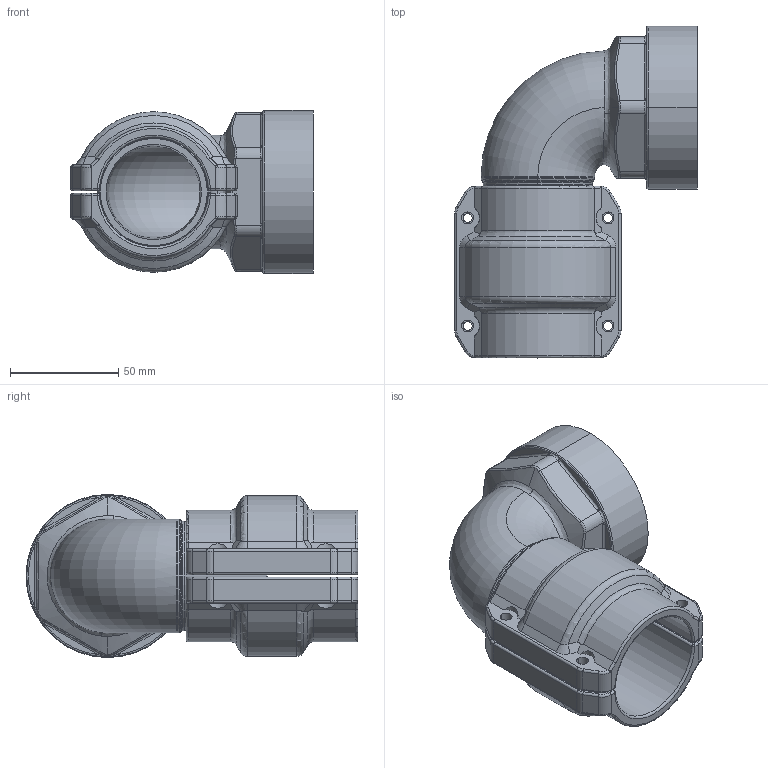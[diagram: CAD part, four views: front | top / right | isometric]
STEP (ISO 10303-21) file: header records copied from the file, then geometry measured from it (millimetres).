
FILE_DESCRIPTION((''),'2;1');
FILE_NAME('AU15551399_ASM','2017-05-12T',('Administrator'),(''),'PRO/ENGINEER BY PARAMETRIC TECHNOLOGY CORPORATION, 2009360','PRO/ENGINEER BY PARAMETRIC TECHNOLOGY CORPORATION, 2009360','');
FILE_SCHEMA(('AUTOMOTIVE_DESIGN_CC2 { 1 2 10303 214 -1 1 5 2 }'));
Length unit declared in the file: millimetre
Products named in the file (5): AU15551300; 201550020001; 201550020000; 2015500200_ASM; AU15551399_ASM
Assembly tree (4 placements, depth 3):
  AU15551399_ASM
    AU15551300
    2015500200_ASM
      201550020001
      201550020000
Bounding box: 112.34 x 153.56 x 75.45 mm (x, y, z)
Volume: 269770.7 mm3; surface area: 86903.5 mm2
Topology: 3 solids, 3 shells, 309 faces, 761 edges, 459 vertices
Faces by surface type: cylinder 112, torus 68, bspline 56, plane 51, cone 14, sphere 8
Entity records: 14301 total; most frequent: CARTESIAN_POINT 4921, ORIENTED_EDGE 1522, DIRECTION 1408, PRESENTATION_STYLE_ASSIGNMENT 764, STYLED_ITEM 764, CURVE_STYLE 761, EDGE_CURVE 761, AXIS2_PLACEMENT_3D 591
